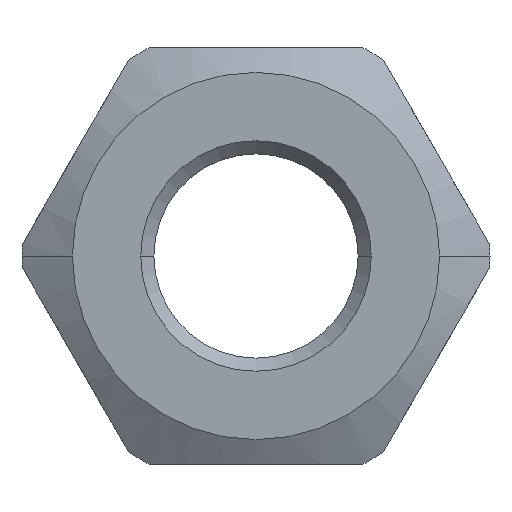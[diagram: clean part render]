
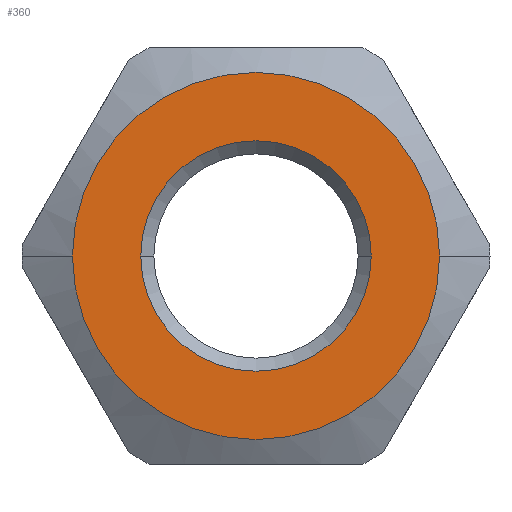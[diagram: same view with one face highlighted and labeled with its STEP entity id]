
A CAD part, left-side view. The second image highlights one B-rep face of the part: STEP entity #360.
In plain terms, the highlighted planar face has unit normal (-1, 0, 0).
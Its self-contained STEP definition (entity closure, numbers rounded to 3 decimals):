
#10=CARTESIAN_POINT('',(20.059,33.514,0.));
#20=DIRECTION('',(-1.,0.,0.));
#30=DIRECTION('',(0.,1.,0.));
#40=AXIS2_PLACEMENT_3D('',#10,#20,#30);
#50=PLANE('',#40);
#60=CARTESIAN_POINT('',(20.059,25.139,0.));
#70=DIRECTION('',(-1.,0.,0.));
#80=DIRECTION('',(0.,1.,0.));
#90=AXIS2_PLACEMENT_3D('',#60,#70,#80);
#100=CIRCLE('',#90,10.516);
#110=CARTESIAN_POINT('',(20.059,35.654,0.));
#120=VERTEX_POINT('',#110);
#130=CARTESIAN_POINT('',(20.059,14.623,0.));
#140=VERTEX_POINT('',#130);
#150=EDGE_CURVE('',#120,#140,#100,.T.);
#160=ORIENTED_EDGE('',*,*,#150,.F.);
#170=EDGE_CURVE('',#140,#120,#100,.T.);
#180=ORIENTED_EDGE('',*,*,#170,.F.);
#190=EDGE_LOOP('',(#180,#160));
#200=FACE_BOUND('',#190,.T.);
#210=CARTESIAN_POINT('',(20.059,25.139,0.));
#220=DIRECTION('',(1.,0.,0.));
#230=DIRECTION('',(0.,1.,0.));
#240=AXIS2_PLACEMENT_3D('',#210,#220,#230);
#250=CIRCLE('',#240,16.75);
#260=CARTESIAN_POINT('',(20.059,41.889,0.));
#270=VERTEX_POINT('',#260);
#280=CARTESIAN_POINT('',(20.059,8.389,0.));
#290=VERTEX_POINT('',#280);
#300=EDGE_CURVE('',#270,#290,#250,.T.);
#310=ORIENTED_EDGE('',*,*,#300,.F.);
#320=EDGE_CURVE('',#290,#270,#250,.T.);
#330=ORIENTED_EDGE('',*,*,#320,.F.);
#340=EDGE_LOOP('',(#330,#310));
#350=FACE_OUTER_BOUND('',#340,.T.);
#360=ADVANCED_FACE('',(#200,#350),#50,.T.);
